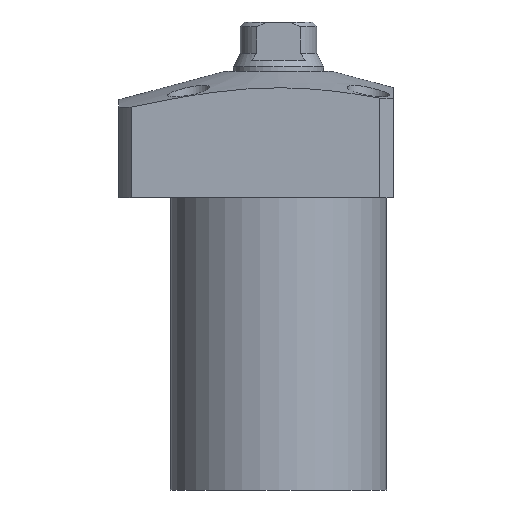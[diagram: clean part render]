
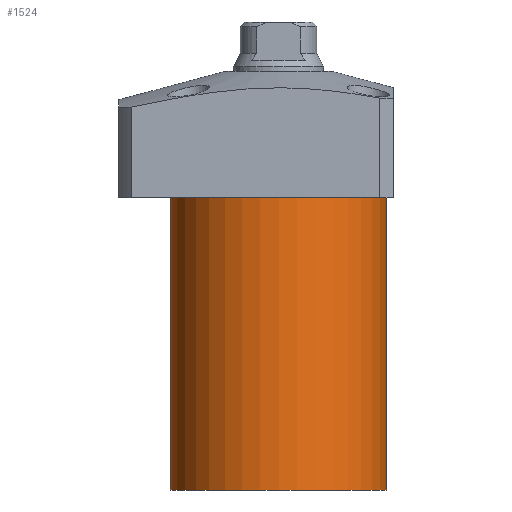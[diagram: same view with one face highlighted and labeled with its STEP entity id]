
A CAD part, front view. The second image highlights one B-rep face of the part: STEP entity #1524.
In plain terms, the highlighted cylindrical face has radius 24 mm (diameter 48 mm), a partial arc.
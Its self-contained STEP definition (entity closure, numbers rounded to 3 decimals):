
#11 = DIRECTION ( 'NONE',  ( 0., 0., 1. ) ) ;
#139 = EDGE_CURVE ( 'NONE', #1100, #1453, #685, .T. ) ;
#154 = CARTESIAN_POINT ( 'NONE',  ( 0., 0., -79. ) ) ;
#164 = CIRCLE ( 'NONE', #1105, 24. ) ;
#261 = CARTESIAN_POINT ( 'NONE',  ( -24., 0., -14. ) ) ;
#285 = DIRECTION ( 'NONE',  ( -1., 0., 0. ) ) ;
#360 = ORIENTED_EDGE ( 'NONE', *, *, #2331, .T. ) ;
#379 = AXIS2_PLACEMENT_3D ( 'NONE', #2389, #2031, #1069 ) ;
#387 = EDGE_LOOP ( 'NONE', ( #1793, #2410, #1211, #360 ) ) ;
#391 = CARTESIAN_POINT ( 'NONE',  ( -24., 0., -79. ) ) ;
#511 = CIRCLE ( 'NONE', #379, 24. ) ;
#685 = LINE ( 'NONE', #924, #2214 ) ;
#828 = DIRECTION ( 'NONE',  ( 0., 0., -1. ) ) ;
#924 = CARTESIAN_POINT ( 'NONE',  ( 24., 0., -79. ) ) ;
#1049 = DIRECTION ( 'NONE',  ( 0., 0., 1. ) ) ;
#1060 = CARTESIAN_POINT ( 'NONE',  ( 24., 0., -79. ) ) ;
#1069 = DIRECTION ( 'NONE',  ( 1., 0., 0. ) ) ;
#1100 = VERTEX_POINT ( 'NONE', #1060 ) ;
#1105 = AXIS2_PLACEMENT_3D ( 'NONE', #154, #828, #285 ) ;
#1109 = FACE_OUTER_BOUND ( 'NONE', #387, .T. ) ;
#1211 = ORIENTED_EDGE ( 'NONE', *, *, #139, .T. ) ;
#1351 = CARTESIAN_POINT ( 'NONE',  ( -24., 0., -79. ) ) ;
#1453 = VERTEX_POINT ( 'NONE', #2304 ) ;
#1476 = VERTEX_POINT ( 'NONE', #391 ) ;
#1524 = ADVANCED_FACE ( 'NONE', ( #1109 ), #1683, .T. ) ;
#1683 = CYLINDRICAL_SURFACE ( 'NONE', #2107, 24. ) ;
#1793 = ORIENTED_EDGE ( 'NONE', *, *, #2151, .F. ) ;
#1828 = DIRECTION ( 'NONE',  ( 1., 0., 0. ) ) ;
#1844 = CARTESIAN_POINT ( 'NONE',  ( 0., 0., -79. ) ) ;
#1932 = EDGE_CURVE ( 'NONE', #1100, #1476, #164, .T. ) ;
#2031 = DIRECTION ( 'NONE',  ( 0., 0., -1. ) ) ;
#2107 = AXIS2_PLACEMENT_3D ( 'NONE', #1844, #1049, #1828 ) ;
#2151 = EDGE_CURVE ( 'NONE', #1476, #2233, #2367, .T. ) ;
#2214 = VECTOR ( 'NONE', #2447, 1000. ) ;
#2233 = VERTEX_POINT ( 'NONE', #261 ) ;
#2252 = VECTOR ( 'NONE', #11, 1000. ) ;
#2304 = CARTESIAN_POINT ( 'NONE',  ( 24., 0., -14. ) ) ;
#2331 = EDGE_CURVE ( 'NONE', #1453, #2233, #511, .T. ) ;
#2367 = LINE ( 'NONE', #1351, #2252 ) ;
#2389 = CARTESIAN_POINT ( 'NONE',  ( 0., 0., -14. ) ) ;
#2410 = ORIENTED_EDGE ( 'NONE', *, *, #1932, .F. ) ;
#2447 = DIRECTION ( 'NONE',  ( 0., 0., 1. ) ) ;
